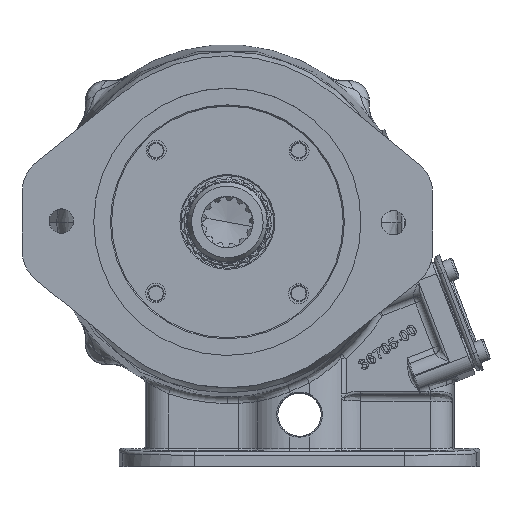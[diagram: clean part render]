
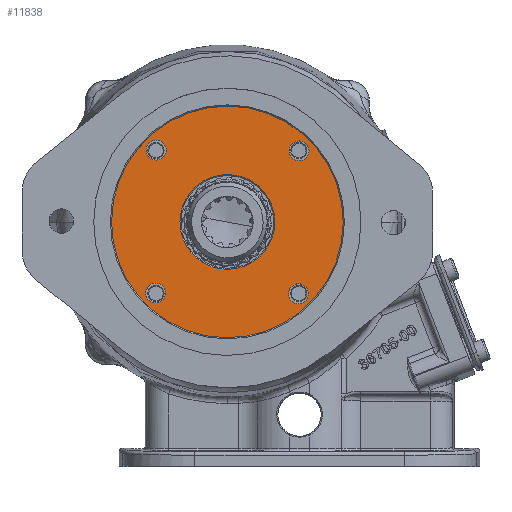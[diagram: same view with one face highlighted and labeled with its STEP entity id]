
A CAD part, top view. The second image highlights one B-rep face of the part: STEP entity #11838.
In plain terms, the highlighted planar face has unit normal (0, 0, 1).
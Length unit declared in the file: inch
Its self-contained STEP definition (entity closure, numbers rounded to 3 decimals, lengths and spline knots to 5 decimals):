
#1068 = CARTESIAN_POINT ( 'NONE',  ( -1.237, -1.237, 1.52 ) ) ;
#1500 = EDGE_CURVE ( 'NONE', #147548, #48231, #112626, .T. ) ;
#2260 = DIRECTION ( 'NONE',  ( 1., 0., 0. ) ) ;
#3929 = DIRECTION ( 'NONE',  ( 0., 0., 1. ) ) ;
#5189 = ORIENTED_EDGE ( 'NONE', *, *, #127777, .T. ) ;
#6024 = CIRCLE ( 'NONE', #152569, 2.006 ) ;
#9296 = DIRECTION ( 'NONE',  ( 0., 0., 1. ) ) ;
#9427 = CARTESIAN_POINT ( 'NONE',  ( 1.409, -1.237, 1.52 ) ) ;
#9481 = AXIS2_PLACEMENT_3D ( 'NONE', #96412, #10500, #102294 ) ;
#10500 = DIRECTION ( 'NONE',  ( 0., 0., 1. ) ) ;
#11838 = ADVANCED_FACE ( 'NONE', ( #59681, #111502, #123423, #83530, #98771, #20621 ), #86855, .F. ) ;
#16774 = CARTESIAN_POINT ( 'NONE',  ( 1.065, 1.237, 1.52 ) ) ;
#17168 = DIRECTION ( 'NONE',  ( 1., 0., 0. ) ) ;
#20621 = FACE_BOUND ( 'NONE', #63500, .T. ) ;
#25352 = CARTESIAN_POINT ( 'NONE',  ( 1.065, -1.237, 1.52 ) ) ;
#25361 = AXIS2_PLACEMENT_3D ( 'NONE', #126556, #90003, #77270 ) ;
#29150 = CARTESIAN_POINT ( 'NONE',  ( 0., 0., 1.52 ) ) ;
#32015 = CIRCLE ( 'NONE', #59197, 0.172 ) ;
#34114 = DIRECTION ( 'NONE',  ( 1., 0., 0. ) ) ;
#36391 = DIRECTION ( 'NONE',  ( -1., 0., 0. ) ) ;
#41028 = CIRCLE ( 'NONE', #54497, 0.82084 ) ;
#42508 = ORIENTED_EDGE ( 'NONE', *, *, #145013, .F. ) ;
#43037 = CARTESIAN_POINT ( 'NONE',  ( 1.237, -1.237, 1.52 ) ) ;
#45293 = DIRECTION ( 'NONE',  ( 0., 0., -1. ) ) ;
#46237 = CIRCLE ( 'NONE', #70583, 0.172 ) ;
#48231 = VERTEX_POINT ( 'NONE', #135240 ) ;
#48814 = EDGE_LOOP ( 'NONE', ( #5189, #85072 ) ) ;
#48873 = EDGE_CURVE ( 'NONE', #96825, #86292, #41028, .T. ) ;
#48917 = VERTEX_POINT ( 'NONE', #25352 ) ;
#49145 = DIRECTION ( 'NONE',  ( 0., 0., -1. ) ) ;
#49868 = AXIS2_PLACEMENT_3D ( 'NONE', #74750, #9296, #123217 ) ;
#50000 = DIRECTION ( 'NONE',  ( 0., 0., 1. ) ) ;
#51430 = EDGE_CURVE ( 'NONE', #48917, #137028, #46237, .T. ) ;
#53529 = ORIENTED_EDGE ( 'NONE', *, *, #90180, .F. ) ;
#54497 = AXIS2_PLACEMENT_3D ( 'NONE', #102676, #49145, #36391 ) ;
#54516 = CARTESIAN_POINT ( 'NONE',  ( -1.409, -1.237, 1.52 ) ) ;
#55280 = ORIENTED_EDGE ( 'NONE', *, *, #165332, .F. ) ;
#55484 = DIRECTION ( 'NONE',  ( 1., 0., 0. ) ) ;
#56608 = AXIS2_PLACEMENT_3D ( 'NONE', #71714, #58980, #123554 ) ;
#58850 = CARTESIAN_POINT ( 'NONE',  ( 2.006, 0., 1.52 ) ) ;
#58980 = DIRECTION ( 'NONE',  ( 0., 0., 1. ) ) ;
#59197 = AXIS2_PLACEMENT_3D ( 'NONE', #150145, #123829, #98320 ) ;
#59681 = FACE_BOUND ( 'NONE', #145167, .T. ) ;
#63500 = EDGE_LOOP ( 'NONE', ( #53529, #156143 ) ) ;
#64412 = AXIS2_PLACEMENT_3D ( 'NONE', #105736, #127891, #157580 ) ;
#69361 = EDGE_CURVE ( 'NONE', #86292, #96825, #152816, .T. ) ;
#70186 = EDGE_CURVE ( 'NONE', #78183, #167812, #131246, .T. ) ;
#70583 = AXIS2_PLACEMENT_3D ( 'NONE', #135253, #151359, #34114 ) ;
#71714 = CARTESIAN_POINT ( 'NONE',  ( 1.237, 1.237, 1.52 ) ) ;
#73256 = DIRECTION ( 'NONE',  ( -1., 0., 0. ) ) ;
#74750 = CARTESIAN_POINT ( 'NONE',  ( -1.237, 1.237, 1.52 ) ) ;
#75779 = EDGE_CURVE ( 'NONE', #76271, #158018, #114385, .T. ) ;
#76080 = VERTEX_POINT ( 'NONE', #107045 ) ;
#76271 = VERTEX_POINT ( 'NONE', #154516 ) ;
#77270 = DIRECTION ( 'NONE',  ( -1., 0., 0. ) ) ;
#78183 = VERTEX_POINT ( 'NONE', #114562 ) ;
#80994 = DIRECTION ( 'NONE',  ( 0., 0., 1. ) ) ;
#82488 = ORIENTED_EDGE ( 'NONE', *, *, #149378, .F. ) ;
#83530 = FACE_OUTER_BOUND ( 'NONE', #48814, .T. ) ;
#83791 = CIRCLE ( 'NONE', #56608, 0.172 ) ;
#85072 = ORIENTED_EDGE ( 'NONE', *, *, #1500, .T. ) ;
#86224 = AXIS2_PLACEMENT_3D ( 'NONE', #142596, #50000, #89091 ) ;
#86292 = VERTEX_POINT ( 'NONE', #100330 ) ;
#86855 = PLANE ( 'NONE',  #114863 ) ;
#88794 = CIRCLE ( 'NONE', #64412, 0.172 ) ;
#89091 = DIRECTION ( 'NONE',  ( 1., 0., 0. ) ) ;
#90003 = DIRECTION ( 'NONE',  ( 0., 0., -1. ) ) ;
#90038 = AXIS2_PLACEMENT_3D ( 'NONE', #1068, #133567, #17168 ) ;
#90180 = EDGE_CURVE ( 'NONE', #137028, #48917, #130455, .T. ) ;
#95696 = VERTEX_POINT ( 'NONE', #16774 ) ;
#96412 = CARTESIAN_POINT ( 'NONE',  ( 0., 0., 1.52 ) ) ;
#96825 = VERTEX_POINT ( 'NONE', #120860 ) ;
#98320 = DIRECTION ( 'NONE',  ( 1., 0., 0. ) ) ;
#98771 = FACE_BOUND ( 'NONE', #149111, .T. ) ;
#100036 = ORIENTED_EDGE ( 'NONE', *, *, #146828, .F. ) ;
#100330 = CARTESIAN_POINT ( 'NONE',  ( 0.82084, 0., 1.52 ) ) ;
#102294 = DIRECTION ( 'NONE',  ( 1., 0., 0. ) ) ;
#102676 = CARTESIAN_POINT ( 'NONE',  ( 0., 0., 1.52 ) ) ;
#105736 = CARTESIAN_POINT ( 'NONE',  ( -1.237, 1.237, 1.52 ) ) ;
#107045 = CARTESIAN_POINT ( 'NONE',  ( 1.409, 1.237, 1.52 ) ) ;
#111502 = FACE_BOUND ( 'NONE', #121311, .T. ) ;
#112626 = CIRCLE ( 'NONE', #9481, 2.006 ) ;
#114385 = CIRCLE ( 'NONE', #90038, 0.172 ) ;
#114562 = CARTESIAN_POINT ( 'NONE',  ( -1.065, 1.237, 1.52 ) ) ;
#114863 = AXIS2_PLACEMENT_3D ( 'NONE', #58850, #45293, #73256 ) ;
#120113 = ORIENTED_EDGE ( 'NONE', *, *, #70186, .F. ) ;
#120860 = CARTESIAN_POINT ( 'NONE',  ( -0.82084, 0., 1.52 ) ) ;
#121311 = EDGE_LOOP ( 'NONE', ( #120113, #42508 ) ) ;
#123217 = DIRECTION ( 'NONE',  ( 1., 0., 0. ) ) ;
#123423 = FACE_BOUND ( 'NONE', #123542, .T. ) ;
#123542 = EDGE_LOOP ( 'NONE', ( #126351, #55280 ) ) ;
#123554 = DIRECTION ( 'NONE',  ( 1., 0., 0. ) ) ;
#123829 = DIRECTION ( 'NONE',  ( 0., 0., 1. ) ) ;
#126351 = ORIENTED_EDGE ( 'NONE', *, *, #75779, .F. ) ;
#126556 = CARTESIAN_POINT ( 'NONE',  ( 0., 0., 1.52 ) ) ;
#126580 = ORIENTED_EDGE ( 'NONE', *, *, #48873, .T. ) ;
#127777 = EDGE_CURVE ( 'NONE', #48231, #147548, #6024, .T. ) ;
#127891 = DIRECTION ( 'NONE',  ( 0., 0., 1. ) ) ;
#130455 = CIRCLE ( 'NONE', #152133, 0.172 ) ;
#131246 = CIRCLE ( 'NONE', #49868, 0.172 ) ;
#133567 = DIRECTION ( 'NONE',  ( 0., 0., 1. ) ) ;
#134061 = CARTESIAN_POINT ( 'NONE',  ( -1.409, 1.237, 1.52 ) ) ;
#135240 = CARTESIAN_POINT ( 'NONE',  ( 2.006, 0., 1.52 ) ) ;
#135253 = CARTESIAN_POINT ( 'NONE',  ( 1.237, -1.237, 1.52 ) ) ;
#136946 = CARTESIAN_POINT ( 'NONE',  ( -2.006, 0., 1.52 ) ) ;
#137028 = VERTEX_POINT ( 'NONE', #9427 ) ;
#140976 = ORIENTED_EDGE ( 'NONE', *, *, #69361, .T. ) ;
#142596 = CARTESIAN_POINT ( 'NONE',  ( 1.237, 1.237, 1.52 ) ) ;
#145013 = EDGE_CURVE ( 'NONE', #167812, #78183, #88794, .T. ) ;
#145167 = EDGE_LOOP ( 'NONE', ( #140976, #126580 ) ) ;
#146828 = EDGE_CURVE ( 'NONE', #95696, #76080, #162185, .T. ) ;
#147548 = VERTEX_POINT ( 'NONE', #136946 ) ;
#149111 = EDGE_LOOP ( 'NONE', ( #82488, #100036 ) ) ;
#149378 = EDGE_CURVE ( 'NONE', #76080, #95696, #83791, .T. ) ;
#150145 = CARTESIAN_POINT ( 'NONE',  ( -1.237, -1.237, 1.52 ) ) ;
#151359 = DIRECTION ( 'NONE',  ( 0., 0., 1. ) ) ;
#152133 = AXIS2_PLACEMENT_3D ( 'NONE', #43037, #3929, #2260 ) ;
#152569 = AXIS2_PLACEMENT_3D ( 'NONE', #29150, #80994, #55484 ) ;
#152816 = CIRCLE ( 'NONE', #25361, 0.82084 ) ;
#154516 = CARTESIAN_POINT ( 'NONE',  ( -1.065, -1.237, 1.52 ) ) ;
#156143 = ORIENTED_EDGE ( 'NONE', *, *, #51430, .F. ) ;
#157580 = DIRECTION ( 'NONE',  ( 1., 0., 0. ) ) ;
#158018 = VERTEX_POINT ( 'NONE', #54516 ) ;
#162185 = CIRCLE ( 'NONE', #86224, 0.172 ) ;
#165332 = EDGE_CURVE ( 'NONE', #158018, #76271, #32015, .T. ) ;
#167812 = VERTEX_POINT ( 'NONE', #134061 ) ;
